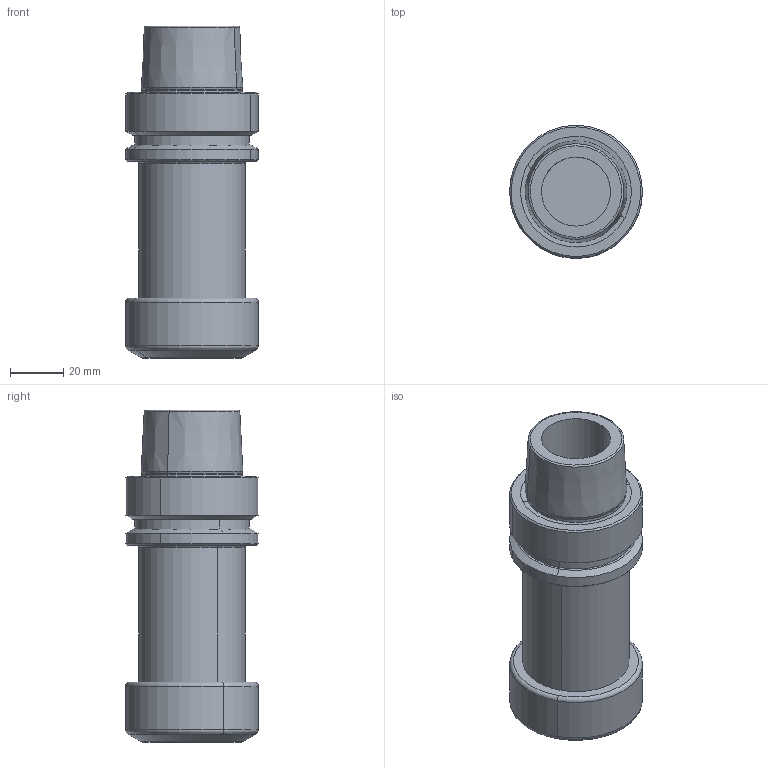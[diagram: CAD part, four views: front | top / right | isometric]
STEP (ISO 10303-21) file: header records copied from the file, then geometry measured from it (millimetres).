
FILE_DESCRIPTION(('CATIA V5 STEP','CAx-IF Rec.Pracs.--- Model Styling and Organization---1.2---2011-12-15'),'2;1');
FILE_NAME('\\nas01\drv1\utils\eitdev\rte\eit\transmagicconvert\db\out\635935457880748915\4504237-D-B-L.stp','2016-03-14T07:50:03+00:00',('none'),('none'),'CATIA Version 5 Release 21 SP 5 (IN-10)','CATIA V5 STEP AP214','none');
FILE_SCHEMA(('AUTOMOTIVE_DESIGN { 1 0 10303 214 1 1 1 1 }'));
Length unit declared in the file: millimetre
Products named in the file (1): HSK E 50 ER32X100
Bounding box: 50 x 49.99 x 125 mm (x, y, z)
Volume: 132849.8 mm3; surface area: 29290.9 mm2
Topology: 1 solids, 1 shells, 62 faces, 132 edges, 77 vertices
Faces by surface type: cone 22, cylinder 20, torus 12, plane 8
Entity records: 1478 total; most frequent: ORIENTED_EDGE 260, CARTESIAN_POINT 245, DIRECTION 204, EDGE_CURVE 130, AXIS2_PLACEMENT_3D 126, CIRCLE 88, VERTEX_POINT 77, EDGE_LOOP 69
